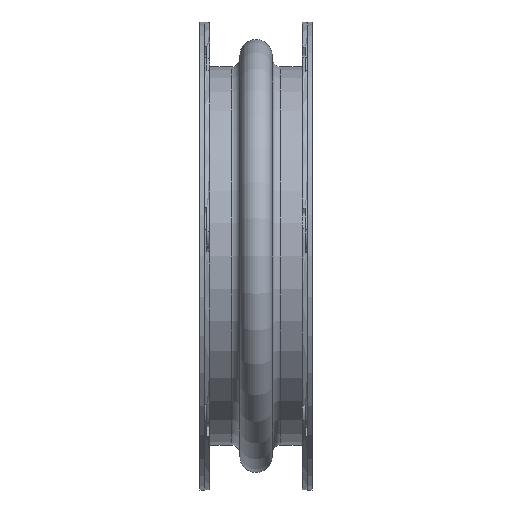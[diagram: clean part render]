
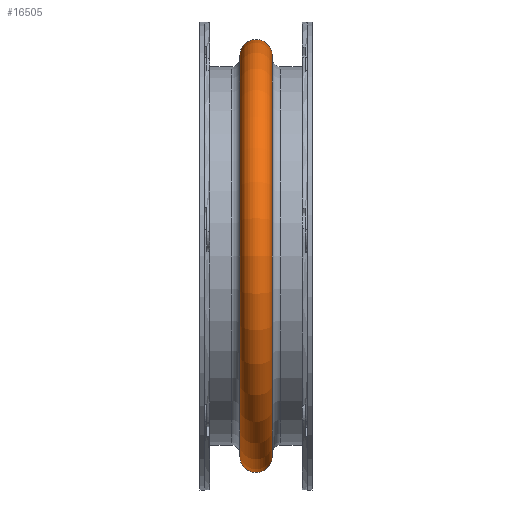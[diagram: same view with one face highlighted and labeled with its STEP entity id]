
A CAD part, front view. The second image highlights one B-rep face of the part: STEP entity #16505.
In plain terms, the highlighted toroidal (fillet/blend) face has major radius 454.025 mm and minor radius 36.513 mm.
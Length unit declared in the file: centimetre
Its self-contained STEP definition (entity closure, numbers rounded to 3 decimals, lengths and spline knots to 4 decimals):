
#271=FACE_BOUND('',#2806,.T.);
#1174=TOROIDAL_SURFACE('',#18201,45.4025,3.6513);
#1665=FACE_OUTER_BOUND('',#2805,.T.);
#2805=EDGE_LOOP('',(#12659));
#2806=EDGE_LOOP('',(#12660));
#5761=CIRCLE('',#18200,45.5235);
#5762=CIRCLE('',#18202,45.5235);
#7281=VERTEX_POINT('',#27603);
#7282=VERTEX_POINT('',#27606);
#9221=EDGE_CURVE('',#7281,#7281,#5761,.T.);
#9222=EDGE_CURVE('',#7282,#7282,#5762,.T.);
#12659=ORIENTED_EDGE('',*,*,#9222,.F.);
#12660=ORIENTED_EDGE('',*,*,#9221,.T.);
#16505=ADVANCED_FACE('',(#1665,#271),#1174,.T.);
#18200=AXIS2_PLACEMENT_3D('',#27604,#22215,#22216);
#18201=AXIS2_PLACEMENT_3D('',#27605,#22217,#22218);
#18202=AXIS2_PLACEMENT_3D('',#27607,#22219,#22220);
#22215=DIRECTION('center_axis',(1.,0.,0.));
#22216=DIRECTION('ref_axis',(0.,0.,
-1.));
#22217=DIRECTION('center_axis',(1.,0.,0.));
#22218=DIRECTION('ref_axis',(0.,0.,-1.));
#22219=DIRECTION('center_axis',(1.,0.,0.));
#22220=DIRECTION('ref_axis',(0.,0.,
-1.));
#27603=CARTESIAN_POINT('',(-3.6492,45.5235,0.));
#27604=CARTESIAN_POINT('Origin',(-3.6492,0.,
0.));
#27605=CARTESIAN_POINT('Origin',(0.,0.,
0.));
#27606=CARTESIAN_POINT('',(3.6492,45.5235,0.));
#27607=CARTESIAN_POINT('Origin',(3.6492,0.,
0.));
